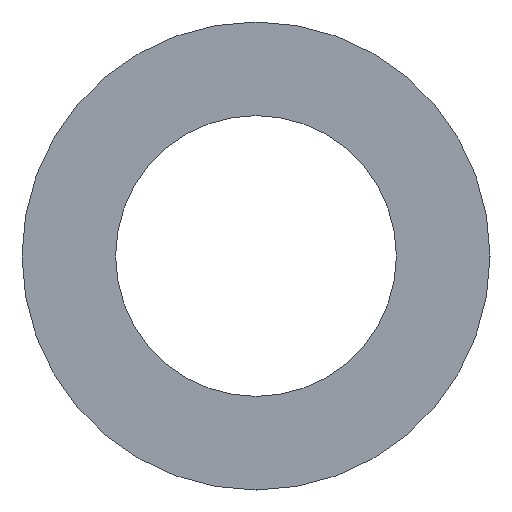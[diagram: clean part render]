
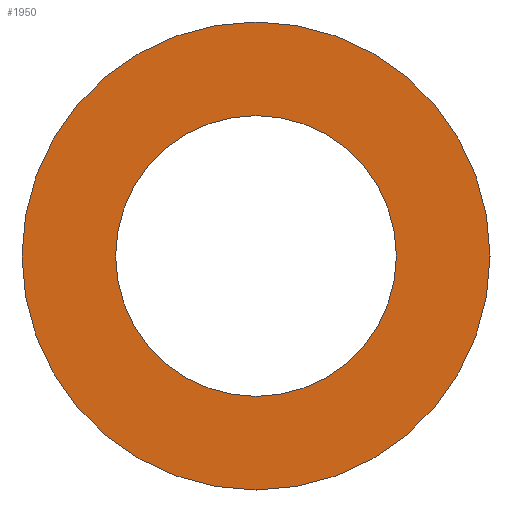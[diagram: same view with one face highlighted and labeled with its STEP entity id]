
A CAD part, front view. The second image highlights one B-rep face of the part: STEP entity #1950.
In plain terms, the highlighted planar face has unit normal (0, -1, 0).
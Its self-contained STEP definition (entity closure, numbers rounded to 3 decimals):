
#87 = ORIENTED_EDGE ( 'NONE', *, *, #1284, .T. ) ;
#93 = DIRECTION ( 'NONE',  ( 0., 0., -1. ) ) ;
#213 = FACE_OUTER_BOUND ( 'NONE', #597, .T. ) ;
#236 = AXIS2_PLACEMENT_3D ( 'NONE', #977, #3216, #1421 ) ;
#414 = CARTESIAN_POINT ( 'NONE',  ( 0., -19., 22.5 ) ) ;
#519 = VERTEX_POINT ( 'NONE', #414 ) ;
#597 = EDGE_LOOP ( 'NONE', ( #1732, #87 ) ) ;
#711 = EDGE_LOOP ( 'NONE', ( #2279, #2358 ) ) ;
#777 = DIRECTION ( 'NONE',  ( 0., -1., 0. ) ) ;
#786 = DIRECTION ( 'NONE',  ( 0., 1., 0. ) ) ;
#790 = DIRECTION ( 'NONE',  ( 0., 0., -1. ) ) ;
#794 = CARTESIAN_POINT ( 'NONE',  ( 0., -19., 0. ) ) ;
#833 = CIRCLE ( 'NONE', #2146, 37.5 ) ;
#965 = CIRCLE ( 'NONE', #236, 22.5 ) ;
#977 = CARTESIAN_POINT ( 'NONE',  ( 0., -19., 0. ) ) ;
#1265 = AXIS2_PLACEMENT_3D ( 'NONE', #2459, #777, #790 ) ;
#1277 = VERTEX_POINT ( 'NONE', #2190 ) ;
#1284 = EDGE_CURVE ( 'NONE', #1277, #2014, #1727, .T. ) ;
#1421 = DIRECTION ( 'NONE',  ( 0., 0., -1. ) ) ;
#1527 = VERTEX_POINT ( 'NONE', #3388 ) ;
#1533 = AXIS2_PLACEMENT_3D ( 'NONE', #794, #2759, #3043 ) ;
#1602 = CARTESIAN_POINT ( 'NONE',  ( 0., -19., -37.5 ) ) ;
#1638 = CARTESIAN_POINT ( 'NONE',  ( 0., -19., 22.5 ) ) ;
#1712 = EDGE_CURVE ( 'NONE', #519, #1527, #3362, .T. ) ;
#1727 = CIRCLE ( 'NONE', #1533, 37.5 ) ;
#1732 = ORIENTED_EDGE ( 'NONE', *, *, #2750, .T. ) ;
#1773 = AXIS2_PLACEMENT_3D ( 'NONE', #1638, #786, #3576 ) ;
#1823 = DIRECTION ( 'NONE',  ( 0., -1., 0. ) ) ;
#1950 = ADVANCED_FACE ( 'NONE', ( #2401, #213 ), #3024, .F. ) ;
#2014 = VERTEX_POINT ( 'NONE', #1602 ) ;
#2146 = AXIS2_PLACEMENT_3D ( 'NONE', #3162, #1823, #93 ) ;
#2190 = CARTESIAN_POINT ( 'NONE',  ( 0., -19., 37.5 ) ) ;
#2279 = ORIENTED_EDGE ( 'NONE', *, *, #2497, .F. ) ;
#2358 = ORIENTED_EDGE ( 'NONE', *, *, #1712, .F. ) ;
#2401 = FACE_BOUND ( 'NONE', #711, .T. ) ;
#2459 = CARTESIAN_POINT ( 'NONE',  ( 0., -19., 0. ) ) ;
#2497 = EDGE_CURVE ( 'NONE', #1527, #519, #965, .T. ) ;
#2750 = EDGE_CURVE ( 'NONE', #2014, #1277, #833, .T. ) ;
#2759 = DIRECTION ( 'NONE',  ( 0., -1., 0. ) ) ;
#3024 = PLANE ( 'NONE',  #1773 ) ;
#3043 = DIRECTION ( 'NONE',  ( 0., 0., -1. ) ) ;
#3162 = CARTESIAN_POINT ( 'NONE',  ( 0., -19., 0. ) ) ;
#3216 = DIRECTION ( 'NONE',  ( 0., -1., 0. ) ) ;
#3362 = CIRCLE ( 'NONE', #1265, 22.5 ) ;
#3388 = CARTESIAN_POINT ( 'NONE',  ( 0., -19., -22.5 ) ) ;
#3576 = DIRECTION ( 'NONE',  ( 0., 0., 1. ) ) ;
